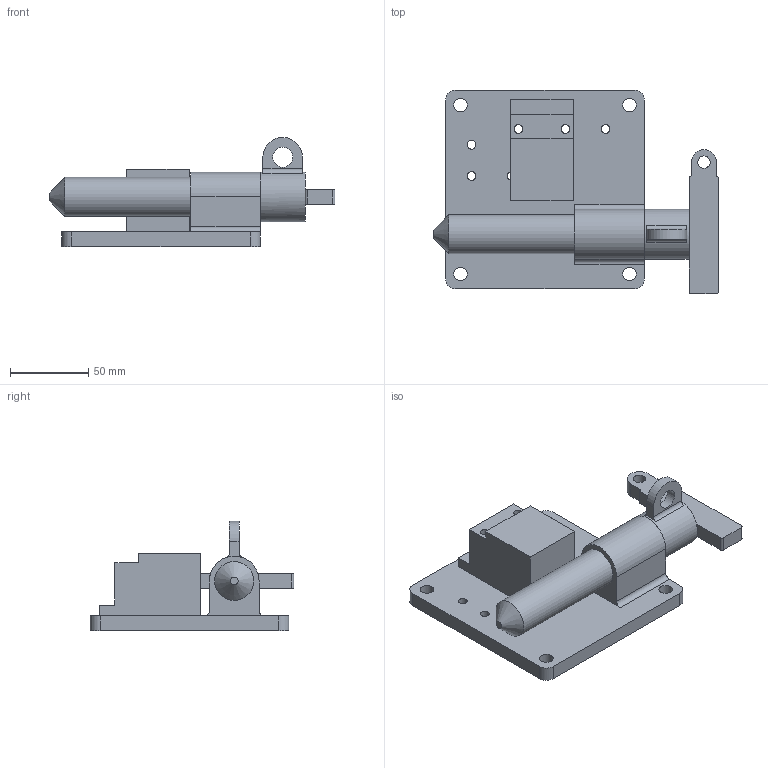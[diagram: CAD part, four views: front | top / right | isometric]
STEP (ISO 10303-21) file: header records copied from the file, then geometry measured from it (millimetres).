
FILE_DESCRIPTION(/* description */ (''),/* implementation_level */ '2;1');
FILE_NAME(/* name */ 'C:\Users\rcarver\Desktop\Tru-LOK pin\Ford-FCA\With Switch\SP25Y125TY00201.stp',/* time_stamp */ '2016-06-21T11:14:23-04:00',/* author */ ('rcarver'),/* organization */ (''),/* preprocessor_version */ 'ST-DEVELOPER v16.5',/* originating_system */ 'Autodesk Inventor 2017',/* authorisation */ '');
FILE_SCHEMA (('AUTOMOTIVE_DESIGN { 1 0 10303 214 3 1 1 }'));
Length unit declared in the file: millimetre
Products named in the file (1): SP25Y125TY00201
Bounding box: 182.62 x 130.18 x 69.85 mm (x, y, z)
Volume: 366296.9 mm3; surface area: 73982.1 mm2
Topology: 3 solids, 3 shells, 69 faces, 192 edges, 131 vertices
Faces by surface type: plane 37, cylinder 31, cone 1
Full cylindrical faces by diameter (mm): 5.588 x2, 5.59 x6, 7.94 x1, 8.74 x4, 12.7 x1, 25 x1, 31.75 x1
Entity records: 2196 total; most frequent: DIRECTION 368, CARTESIAN_POINT 346, ORIENTED_EDGE 320, EDGE_CURVE 160, AXIS2_PLACEMENT_3D 138, EDGE_LOOP 116, VERTEX_POINT 116, LINE 92
